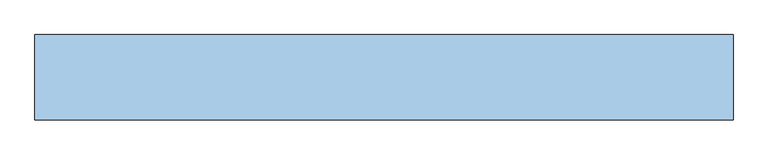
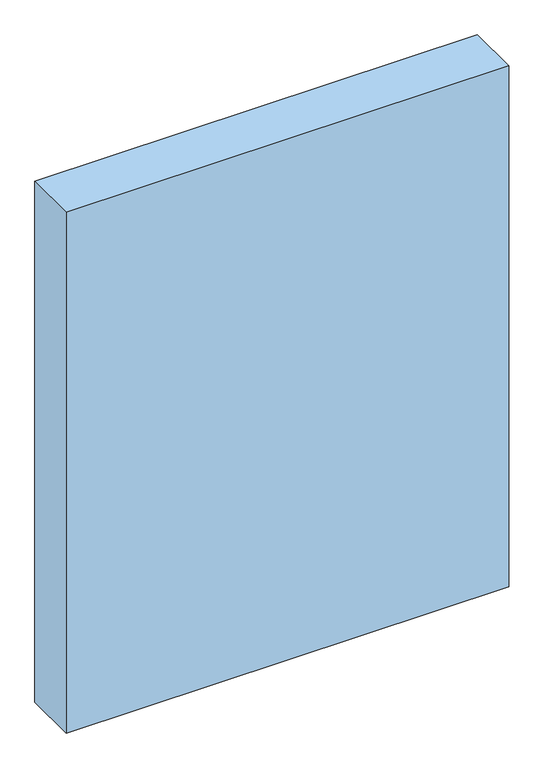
"""IFC4 building model written with IfcOpenShell, lengths in millimetres: window geometry, Dr_Проем-Четверти_об модель : ОК."""

from ifc_helpers import new_model, si_unit, frame, origin, place, context, project, spatial, polyline, outline, extrude, source, transform, mapped, element, save


def window_4f46dce5(model_context):
    return source(origin(), model_context, "Body", "SweptSolid", [
        extrude(outline(polyline([(955.0, 100.0), (955.0, -100.0), (-685.0, -100.0), (-685.0, 100.0), (955.0, 100.0)])), frame((0.0, 0.0, -70.0), z_axis=(0.0, 0.0, 1.0), x_axis=(1.0, 0.0, 0.0)), (0.0, 0.0, 1.0), 2040.0),
    ])


if __name__ == "__main__":
    model = new_model("IFC4")
    model_context = context("Model", 3, world=origin())
    ifc_project = project(units=[si_unit("LENGTHUNIT", "METRE", prefix="MILLI")], contexts=[model_context])
    site = spatial("IfcSite", under=ifc_project)
    building = spatial("IfcBuilding", under=site)
    placement = place(None, origin())
    window_shape = window_4f46dce5(model_context)
    element("IfcWindow", 1, ObjectType="Dr_Проем-Четверти_об модель : ОК", at=placement, inside=building, context=model_context, shape_type="MappedRepresentation", body=[
        mapped(window_shape, transform((0.0, 0.0, 0.0), x_axis=(1.0, 0.0, 0.0), y_axis=(0.0, 1.0, 0.0), z_axis=(0.0, 0.0, 1.0))),
    ])
    save(model, "model.ifc")
